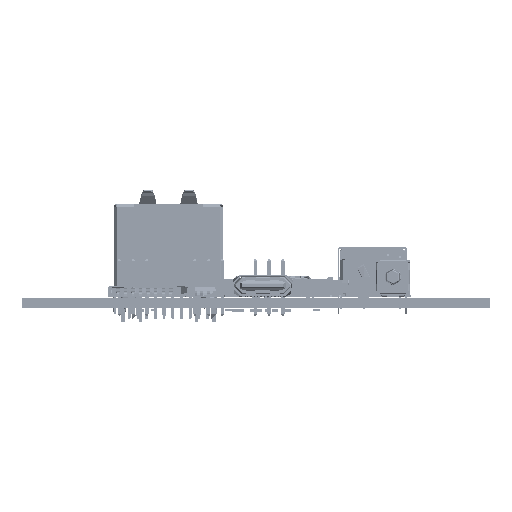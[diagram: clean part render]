
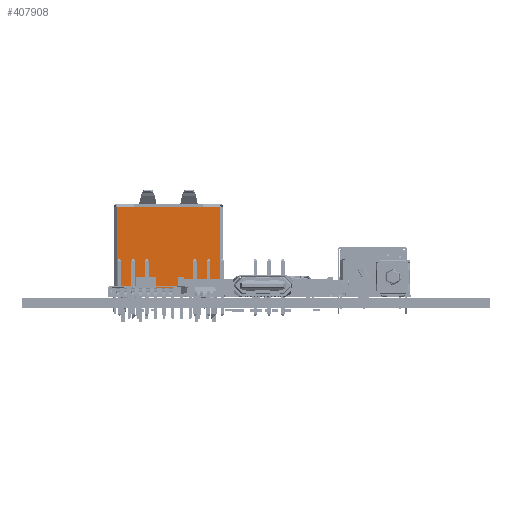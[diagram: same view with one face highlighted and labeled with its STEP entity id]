
A CAD part, left-side view. The second image highlights one B-rep face of the part: STEP entity #407908.
In plain terms, the highlighted free-form (B-spline) face has degree [1, 1] with [2, 2] control points.
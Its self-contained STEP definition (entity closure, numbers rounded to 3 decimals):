
#407908 = ADVANCED_FACE('',(#407909),#407953,.T.);
#407909 = FACE_BOUND('',#407910,.T.);
#407910 = EDGE_LOOP('',(#407911,#407920,#407927,#407934,#407941,#407948)
  );
#407911 = ORIENTED_EDGE('',*,*,#407912,.F.);
#407912 = EDGE_CURVE('',#407913,#407915,#407917,.T.);
#407913 = VERTEX_POINT('',#407914);
#407914 = CARTESIAN_POINT('',(7.786,-4.875,
    -21.2));
#407915 = VERTEX_POINT('',#407916);
#407916 = CARTESIAN_POINT('',(7.786,6.925,
    -21.2));
#407917 = B_SPLINE_CURVE_WITH_KNOTS('',1,(#407918,#407919),
  .UNSPECIFIED.,.F.,.F.,(2,2),(0.,1.),.PIECEWISE_BEZIER_KNOTS.);
#407918 = CARTESIAN_POINT('',(7.786,-4.875,
    -21.2));
#407919 = CARTESIAN_POINT('',(7.786,6.925,
    -21.2));
#407920 = ORIENTED_EDGE('',*,*,#407921,.F.);
#407921 = EDGE_CURVE('',#407922,#407913,#407924,.T.);
#407922 = VERTEX_POINT('',#407923);
#407923 = CARTESIAN_POINT('',(-7.164,-4.875,
    -21.2));
#407924 = B_SPLINE_CURVE_WITH_KNOTS('',1,(#407925,#407926),
  .UNSPECIFIED.,.F.,.F.,(2,2),(0.,1.),.PIECEWISE_BEZIER_KNOTS.);
#407925 = CARTESIAN_POINT('',(-7.164,-4.875,
    -21.2));
#407926 = CARTESIAN_POINT('',(7.786,-4.875,
    -21.2));
#407927 = ORIENTED_EDGE('',*,*,#407928,.F.);
#407928 = EDGE_CURVE('',#407929,#407922,#407931,.T.);
#407929 = VERTEX_POINT('',#407930);
#407930 = CARTESIAN_POINT('',(-7.164,6.925,
    -21.2));
#407931 = B_SPLINE_CURVE_WITH_KNOTS('',1,(#407932,#407933),
  .UNSPECIFIED.,.F.,.F.,(2,2),(0.,1.),.PIECEWISE_BEZIER_KNOTS.);
#407932 = CARTESIAN_POINT('',(-7.164,6.925,
    -21.2));
#407933 = CARTESIAN_POINT('',(-7.164,-4.875,
    -21.2));
#407934 = ORIENTED_EDGE('',*,*,#407935,.F.);
#407935 = EDGE_CURVE('',#407936,#407929,#407938,.T.);
#407936 = VERTEX_POINT('',#407937);
#407937 = CARTESIAN_POINT('',(-4.689,6.925,
    -21.2));
#407938 = B_SPLINE_CURVE_WITH_KNOTS('',1,(#407939,#407940),
  .UNSPECIFIED.,.F.,.F.,(2,2),(0.,1.),.PIECEWISE_BEZIER_KNOTS.);
#407939 = CARTESIAN_POINT('',(-4.689,6.925,
    -21.2));
#407940 = CARTESIAN_POINT('',(-7.164,6.925,
    -21.2));
#407941 = ORIENTED_EDGE('',*,*,#407942,.F.);
#407942 = EDGE_CURVE('',#407943,#407936,#407945,.T.);
#407943 = VERTEX_POINT('',#407944);
#407944 = CARTESIAN_POINT('',(5.311,6.925,
    -21.2));
#407945 = B_SPLINE_CURVE_WITH_KNOTS('',1,(#407946,#407947),
  .UNSPECIFIED.,.F.,.F.,(2,2),(0.,1.),.PIECEWISE_BEZIER_KNOTS.);
#407946 = CARTESIAN_POINT('',(5.311,6.925,
    -21.2));
#407947 = CARTESIAN_POINT('',(-4.689,6.925,
    -21.2));
#407948 = ORIENTED_EDGE('',*,*,#407949,.F.);
#407949 = EDGE_CURVE('',#407915,#407943,#407950,.T.);
#407950 = B_SPLINE_CURVE_WITH_KNOTS('',1,(#407951,#407952),
  .UNSPECIFIED.,.F.,.F.,(2,2),(0.,1.),.PIECEWISE_BEZIER_KNOTS.);
#407951 = CARTESIAN_POINT('',(7.786,6.925,
    -21.2));
#407952 = CARTESIAN_POINT('',(5.311,6.925,
    -21.2));
#407953 = B_SPLINE_SURFACE_WITH_KNOTS('',1,1,(
    (#407954,#407955)
    ,(#407956,#407957
    )),.UNSPECIFIED.,.F.,.F.,.F.,(2,2),(2,2),(-0.589,0.),(
    -0.465,0.),.PIECEWISE_BEZIER_KNOTS.);
#407954 = CARTESIAN_POINT('',(7.786,-4.875,
    -21.2));
#407955 = CARTESIAN_POINT('',(7.786,6.925,
    -21.2));
#407956 = CARTESIAN_POINT('',(-7.164,-4.875,
    -21.2));
#407957 = CARTESIAN_POINT('',(-7.164,6.925,
    -21.2));
